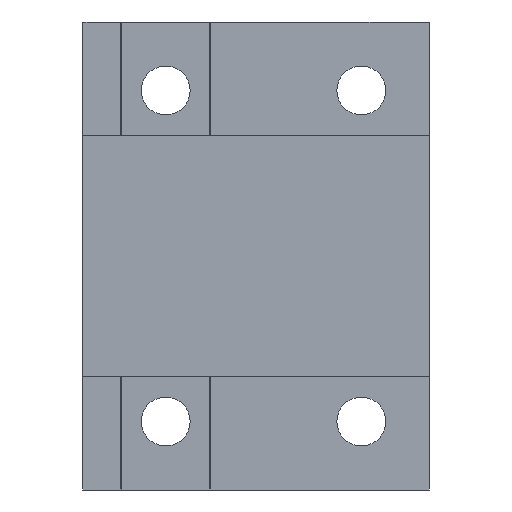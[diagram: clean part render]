
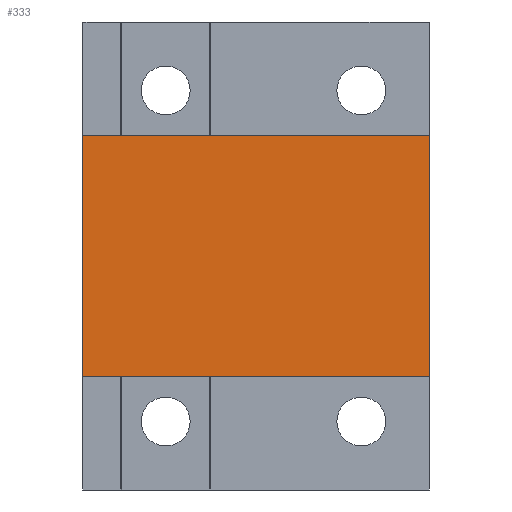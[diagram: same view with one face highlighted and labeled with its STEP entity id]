
A CAD part, front view. The second image highlights one B-rep face of the part: STEP entity #333.
In plain terms, the highlighted planar face has unit normal (0, -1, 0).
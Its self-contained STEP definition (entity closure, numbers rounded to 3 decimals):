
#122 = EDGE_CURVE ( 'NONE', #123, #124, #545, .T. ) ;
#123 = VERTEX_POINT ( 'NONE', #541 ) ;
#124 = VERTEX_POINT ( 'NONE', #540 ) ;
#314 = ORIENTED_EDGE ( 'NONE', *, *, #514, .T. ) ;
#315 = ORIENTED_EDGE ( 'NONE', *, *, #327, .T. ) ;
#327 = EDGE_CURVE ( 'NONE', #512, #123, #893, .T. ) ;
#333 = ADVANCED_FACE ( 'NONE', ( #885 ), #884, .T. ) ;
#334 = EDGE_LOOP ( 'NONE', ( #335, #336, #314, #315 ) ) ;
#335 = ORIENTED_EDGE ( 'NONE', *, *, #122, .T. ) ;
#336 = ORIENTED_EDGE ( 'NONE', *, *, #344, .T. ) ;
#344 = EDGE_CURVE ( 'NONE', #124, #515, #863, .T. ) ;
#512 = VERTEX_POINT ( 'NONE', #1074 ) ;
#514 = EDGE_CURVE ( 'NONE', #515, #512, #1073, .T. ) ;
#515 = VERTEX_POINT ( 'NONE', #1069 ) ;
#540 = CARTESIAN_POINT ( 'NONE',  ( -22., 9.6, -32. ) ) ;
#541 = CARTESIAN_POINT ( 'NONE',  ( -22., 9.6, 32. ) ) ;
#542 = DIRECTION ( 'NONE',  ( 0., 0., -1. ) ) ;
#543 = VECTOR ( 'NONE', #542, 1000. ) ;
#544 = CARTESIAN_POINT ( 'NONE',  ( -22., 9.6, 32. ) ) ;
#545 = LINE ( 'NONE', #544, #543 ) ;
#859 = DIRECTION ( 'NONE',  ( 1., 0., 0. ) ) ;
#860 = VECTOR ( 'NONE', #859, 1000. ) ;
#861 = CARTESIAN_POINT ( 'NONE',  ( -22., 9.6, -32. ) ) ;
#863 = LINE ( 'NONE', #861, #860 ) ;
#880 = DIRECTION ( 'NONE',  ( 0., 0., -1. ) ) ;
#881 = DIRECTION ( 'NONE',  ( 0., -1., 0. ) ) ;
#882 = CARTESIAN_POINT ( 'NONE',  ( -22., 9.6, -32. ) ) ;
#883 = AXIS2_PLACEMENT_3D ( 'NONE', #882, #881, #880 ) ;
#884 = PLANE ( 'NONE',  #883 ) ;
#885 = FACE_OUTER_BOUND ( 'NONE', #334, .T. ) ;
#890 = DIRECTION ( 'NONE',  ( -1., 0., 0. ) ) ;
#891 = VECTOR ( 'NONE', #890, 1000. ) ;
#892 = CARTESIAN_POINT ( 'NONE',  ( -22., 9.6, 32. ) ) ;
#893 = LINE ( 'NONE', #892, #891 ) ;
#1069 = CARTESIAN_POINT ( 'NONE',  ( 70., 9.6, -32. ) ) ;
#1070 = DIRECTION ( 'NONE',  ( 0., 0., 1. ) ) ;
#1071 = VECTOR ( 'NONE', #1070, 1000. ) ;
#1072 = CARTESIAN_POINT ( 'NONE',  ( 70., 9.6, 32. ) ) ;
#1073 = LINE ( 'NONE', #1072, #1071 ) ;
#1074 = CARTESIAN_POINT ( 'NONE',  ( 70., 9.6, 32. ) ) ;
